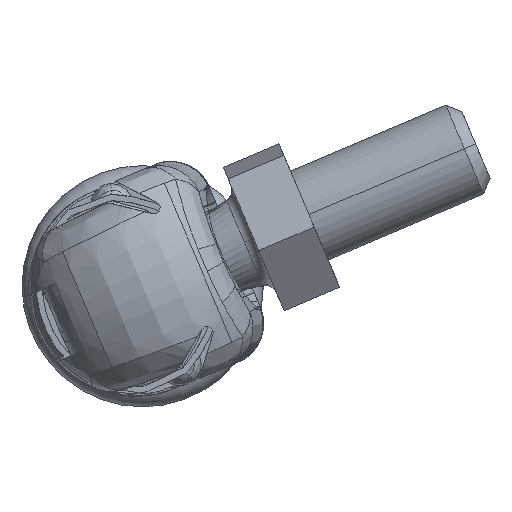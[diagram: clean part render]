
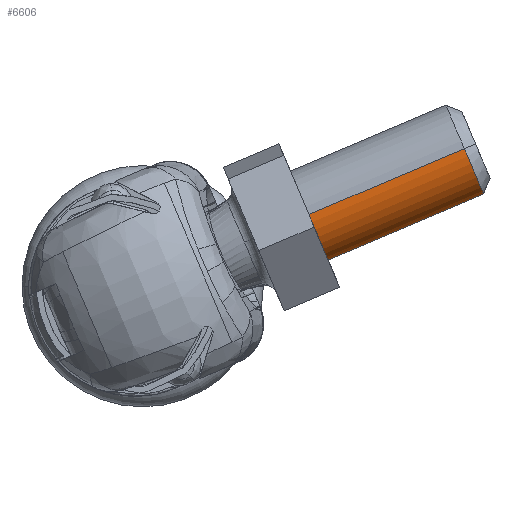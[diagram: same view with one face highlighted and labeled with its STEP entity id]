
A CAD part, left-side view. The second image highlights one B-rep face of the part: STEP entity #6606.
In plain terms, the highlighted cylindrical face has radius 4 mm (diameter 8 mm), a partial arc.
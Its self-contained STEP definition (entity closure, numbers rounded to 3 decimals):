
#886 = DIRECTION ( 'NONE',  ( 0., 0., 1. ) ) ;
#2301 = CARTESIAN_POINT ( 'NONE',  ( 4., 0., 19. ) ) ;
#2497 = VECTOR ( 'NONE', #5552, 1000. ) ;
#3352 = CIRCLE ( 'NONE', #11327, 4. ) ;
#3545 = LINE ( 'NONE', #5614, #11246 ) ;
#3980 = ORIENTED_EDGE ( 'NONE', *, *, #5727, .T. ) ;
#4137 = DIRECTION ( 'NONE',  ( 0., 0., -1. ) ) ;
#4305 = VERTEX_POINT ( 'NONE', #2301 ) ;
#4727 = CARTESIAN_POINT ( 'NONE',  ( 0., 0., 20. ) ) ;
#4776 = ORIENTED_EDGE ( 'NONE', *, *, #10006, .F. ) ;
#5156 = EDGE_CURVE ( 'NONE', #6926, #5515, #9721, .T. ) ;
#5166 = CARTESIAN_POINT ( 'NONE',  ( 0., 0., 5. ) ) ;
#5515 = VERTEX_POINT ( 'NONE', #12112 ) ;
#5552 = DIRECTION ( 'NONE',  ( 0., 0., -1. ) ) ;
#5614 = CARTESIAN_POINT ( 'NONE',  ( -4., 0., 20. ) ) ;
#5727 = EDGE_CURVE ( 'NONE', #12504, #6926, #3545, .T. ) ;
#6356 = CARTESIAN_POINT ( 'NONE',  ( 4., 0., 20. ) ) ;
#6606 = ADVANCED_FACE ( 'NONE', ( #9870 ), #9941, .T. ) ;
#6895 = AXIS2_PLACEMENT_3D ( 'NONE', #5166, #886, #10320 ) ;
#6926 = VERTEX_POINT ( 'NONE', #11756 ) ;
#7641 = LINE ( 'NONE', #6356, #2497 ) ;
#7871 = CARTESIAN_POINT ( 'NONE',  ( -4., 0., 19. ) ) ;
#7965 = DIRECTION ( 'NONE',  ( 1., 0., 0. ) ) ;
#8866 = DIRECTION ( 'NONE',  ( 0., 0., -1. ) ) ;
#8873 = DIRECTION ( 'NONE',  ( 0., 0., -1. ) ) ;
#9097 = EDGE_CURVE ( 'NONE', #4305, #12504, #3352, .T. ) ;
#9721 = CIRCLE ( 'NONE', #6895, 4. ) ;
#9870 = FACE_OUTER_BOUND ( 'NONE', #12436, .T. ) ;
#9941 = CYLINDRICAL_SURFACE ( 'NONE', #10666, 4. ) ;
#10006 = EDGE_CURVE ( 'NONE', #4305, #5515, #7641, .T. ) ;
#10320 = DIRECTION ( 'NONE',  ( 1., 0., 0. ) ) ;
#10377 = ORIENTED_EDGE ( 'NONE', *, *, #9097, .T. ) ;
#10666 = AXIS2_PLACEMENT_3D ( 'NONE', #4727, #8866, #12974 ) ;
#11229 = CARTESIAN_POINT ( 'NONE',  ( 0., 0., 19. ) ) ;
#11246 = VECTOR ( 'NONE', #8873, 1000. ) ;
#11327 = AXIS2_PLACEMENT_3D ( 'NONE', #11229, #4137, #7965 ) ;
#11535 = ORIENTED_EDGE ( 'NONE', *, *, #5156, .T. ) ;
#11756 = CARTESIAN_POINT ( 'NONE',  ( -4., 0., 5. ) ) ;
#12112 = CARTESIAN_POINT ( 'NONE',  ( 4., 0., 5. ) ) ;
#12436 = EDGE_LOOP ( 'NONE', ( #4776, #10377, #3980, #11535 ) ) ;
#12504 = VERTEX_POINT ( 'NONE', #7871 ) ;
#12974 = DIRECTION ( 'NONE',  ( -1., 0., 0. ) ) ;
